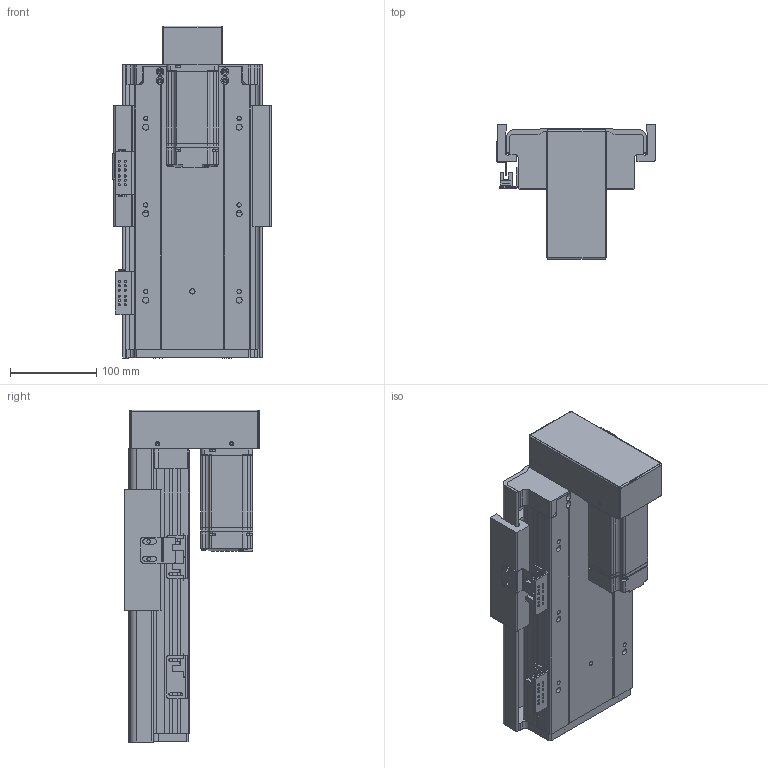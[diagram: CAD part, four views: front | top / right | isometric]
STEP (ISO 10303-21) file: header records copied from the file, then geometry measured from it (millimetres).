
FILE_DESCRIPTION (( 'STEP AP203' ), '1' );
FILE_NAME ('RY140FB-L2010-300-BK.SLDASM_100.step', '2021-02-23T02:28:30', ( '盈信电脑' ), ( '东莞市道滘镇水果街19号' ), 'SwSTEP 2.0', 'SolidWorks 2012', '' );
FILE_SCHEMA (( 'CONFIG_CONTROL_DESIGN' ));
Length unit declared in the file: millimetre
Products named in the file (17): RY140FB-覜茼え; RY140FB-L2010-300-BK.SLDASM_100; RY140直线电机感应器674光电安装座; 覜茼ん674; RY140-674嫖萇耀輸; RY140FB-300蛌殏奻裔啣-BK_100; RY140FB-20佪裝臏賑輸; RY140FB-狟殏萇儂假蚾啣; 侂狟400W侜督萇儂; 15; RY140FB-转折电机端支撑座(7002); RY140狟殏萇儂欶; RY140FB-300蛌殏倰第菁釱-BK_100; RY140FB-綴裔啣; 滅袉蝶18-24; 滅袉蝶18-10
Assembly tree (20 placements, depth 3):
  RY140FB-L2010-300-BK.SLDASM_100
    RY140FB-300蛌殏倰第菁釱-BK_100
    RY140FB-綴裔啣
    滅袉蝶18-24  x2
    滅袉蝶18-10
    RY140FB-转折电机端支撑座(7002)
    侂狟400W侜督萇儂
      15
    RY140狟殏萇儂欶
    RY140FB-狟殏萇儂假蚾啣
    RY140FB-20佪裝臏賑輸
    RY140FB-300蛌殏奻裔啣-BK_100
    RY140-674嫖萇耀輸
      覜茼ん674  x2
      RY140直线电机感应器674光电安装座
    RY140-674嫖萇耀輸
      RY140直线电机感应器674光电安装座
      覜茼ん674
    RY140FB-覜茼え
Bounding box: 183 x 156 x 384 mm (x, y, z)
Volume: 2188159.4 mm3; surface area: 662707 mm2
Topology: 17 solids, 17 shells, 1594 faces, 4305 edges, 2751 vertices
Faces by surface type: plane 719, cylinder 717, cone 130, bspline 28
Entity records: 47127 total; most frequent: CARTESIAN_POINT 9193, DIRECTION 7702, ORIENTED_EDGE 7398, EDGE_CURVE 3699, AXIS2_PLACEMENT_3D 2744, VERTEX_POINT 2419, LINE 2214, VECTOR 2214
